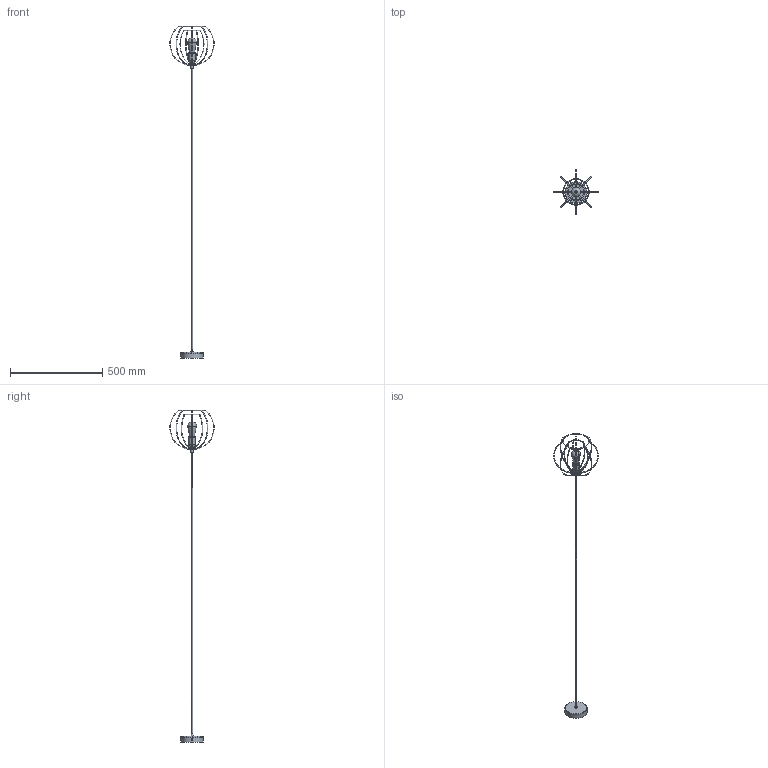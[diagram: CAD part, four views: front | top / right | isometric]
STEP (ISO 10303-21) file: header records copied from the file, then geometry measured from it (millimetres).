
FILE_DESCRIPTION(/* description */ (''),/* implementation_level */ '2;1');
FILE_NAME(/* name */ 'C:/Users/Jakub Wieczorkowski/Desktop/STEP/JAULA_6251 v8 v2 v1.step',/* time_stamp */ '2022-02-22T09:06:48+01:00',/* author */ (''),/* organization */ (''),/* preprocessor_version */ 'ST-DEVELOPER v18.1',/* originating_system */ 'Autodesk Translation Framework v10.13.0.1454',/* authorisation */ '');
FILE_SCHEMA (('AUTOMOTIVE_DESIGN { 1 0 10303 214 3 1 1 }'));
Length unit declared in the file: millimetre
Products named in the file (5): JAULA_6251 v8 v2; Cięgno v1; JAULA_OPRAWA v5; SRUBA JAULA v1; SRUBA JAULA v1(Mirror)
Assembly tree (4 placements, depth 2):
  JAULA_6251 v8 v2
    Cięgno v1
    JAULA_OPRAWA v5
    SRUBA JAULA v1
    SRUBA JAULA v1(Mirror)
Bounding box: 243 x 243 x 1799.96 mm (x, y, z)
Volume: 482670.8 mm3; surface area: 150643.4 mm2
Topology: 38 solids, 38 shells, 214 faces, 394 edges, 258 vertices
Faces by surface type: plane 103, cylinder 41, torus 36, cone 18, bspline 12, sphere 4
Full cylindrical faces by diameter (mm): 1.217 x4, 3.432 x14, 5 x1, 5.6 x1, 6 x2, 6.084 x1, 8 x2, 10 x1, 12 x1, 27.229 x1, 28.142 x1, 33.93 x1, 35.1 x1, 120 x1
Entity records: 6251 total; most frequent: CARTESIAN_POINT 1717, DIRECTION 993, ORIENTED_EDGE 784, AXIS2_PLACEMENT_3D 431, EDGE_CURVE 392, VERTEX_POINT 258, EDGE_LOOP 224, CIRCLE 220
